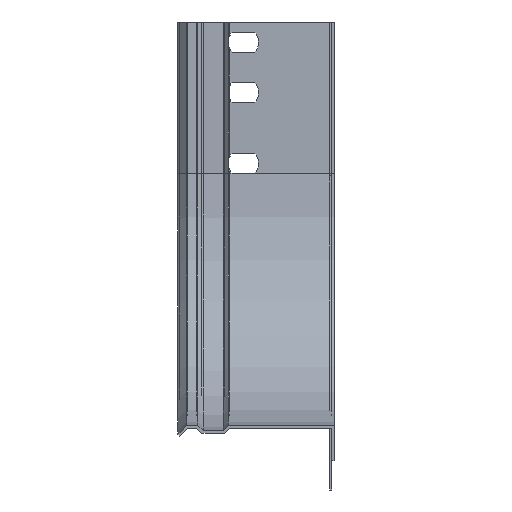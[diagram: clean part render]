
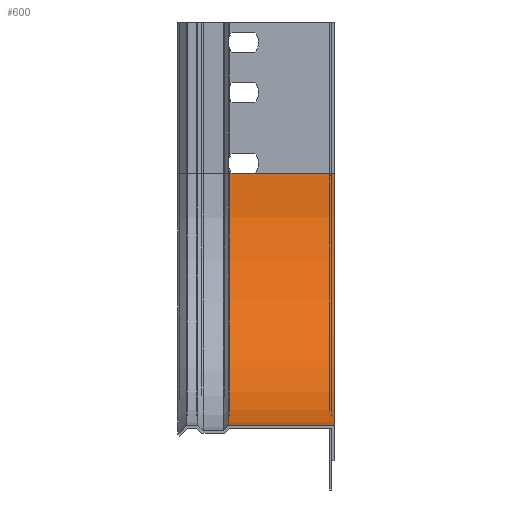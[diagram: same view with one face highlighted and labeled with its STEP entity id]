
A CAD part, left-side view. The second image highlights one B-rep face of the part: STEP entity #600.
In plain terms, the highlighted cylindrical face has radius 100 mm (diameter 200 mm), a partial arc.
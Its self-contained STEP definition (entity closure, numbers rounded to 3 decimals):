
#17 = CARTESIAN_POINT ( 'NONE',  ( -60., 40.472, 160. ) ) ;
#136 = VERTEX_POINT ( 'NONE', #5245 ) ;
#205 = AXIS2_PLACEMENT_3D ( 'NONE', #5011, #2411, #4101 ) ;
#424 = EDGE_CURVE ( 'NONE', #136, #1048, #5495, .T. ) ;
#427 = DIRECTION ( 'NONE',  ( 0., 0., -1. ) ) ;
#465 = CIRCLE ( 'NONE', #1467, 100. ) ;
#478 = FACE_OUTER_BOUND ( 'NONE', #2475, .T. ) ;
#572 = CARTESIAN_POINT ( 'NONE',  ( -60., 40.472, 160. ) ) ;
#600 = ADVANCED_FACE ( 'NONE', ( #478 ), #3090, .F. ) ;
#711 = CARTESIAN_POINT ( 'NONE',  ( -160., 42., 60. ) ) ;
#814 = DIRECTION ( 'NONE',  ( 0., -1., 0. ) ) ;
#856 = CARTESIAN_POINT ( 'NONE',  ( -160., 0., 60. ) ) ;
#875 = ORIENTED_EDGE ( 'NONE', *, *, #424, .T. ) ;
#955 = DIRECTION ( 'NONE',  ( 0., 0., -1. ) ) ;
#1048 = VERTEX_POINT ( 'NONE', #2233 ) ;
#1123 = ORIENTED_EDGE ( 'NONE', *, *, #4787, .F. ) ;
#1189 = DIRECTION ( 'NONE',  ( 0., 1., 0. ) ) ;
#1281 = CARTESIAN_POINT ( 'NONE',  ( -60., 42., 160. ) ) ;
#1467 = AXIS2_PLACEMENT_3D ( 'NONE', #4220, #814, #427 ) ;
#1878 = VERTEX_POINT ( 'NONE', #2139 ) ;
#1930 = DIRECTION ( 'NONE',  ( 0., 1., 0. ) ) ;
#1950 = EDGE_CURVE ( 'NONE', #1048, #4756, #4312, .T. ) ;
#1983 = VERTEX_POINT ( 'NONE', #1281 ) ;
#2021 = EDGE_CURVE ( 'NONE', #4760, #1878, #465, .T. ) ;
#2078 = ORIENTED_EDGE ( 'NONE', *, *, #4806, .F. ) ;
#2131 = VECTOR ( 'NONE', #5592, 1000. ) ;
#2139 = CARTESIAN_POINT ( 'NONE',  ( -160., 0., 60. ) ) ;
#2233 = CARTESIAN_POINT ( 'NONE',  ( -160., 40.472, 60. ) ) ;
#2351 = CARTESIAN_POINT ( 'NONE',  ( -60., 0., 160. ) ) ;
#2367 = EDGE_CURVE ( 'NONE', #1983, #4756, #3010, .T. ) ;
#2411 = DIRECTION ( 'NONE',  ( 0., -1., 0. ) ) ;
#2475 = EDGE_LOOP ( 'NONE', ( #1123, #2607, #5223, #875, #3508, #4998, #3250, #2078 ) ) ;
#2607 = ORIENTED_EDGE ( 'NONE', *, *, #2021, .T. ) ;
#2799 = LINE ( 'NONE', #4831, #4464 ) ;
#2900 = VERTEX_POINT ( 'NONE', #3171 ) ;
#2928 = VECTOR ( 'NONE', #5216, 1000. ) ;
#3010 = CIRCLE ( 'NONE', #205, 100. ) ;
#3090 = CYLINDRICAL_SURFACE ( 'NONE', #4166, 100. ) ;
#3171 = CARTESIAN_POINT ( 'NONE',  ( -60., 31.528, 160. ) ) ;
#3250 = ORIENTED_EDGE ( 'NONE', *, *, #3629, .F. ) ;
#3417 = CARTESIAN_POINT ( 'NONE',  ( -60., 0., 160. ) ) ;
#3481 = CARTESIAN_POINT ( 'NONE',  ( -60., 0., 60. ) ) ;
#3508 = ORIENTED_EDGE ( 'NONE', *, *, #1950, .T. ) ;
#3629 = EDGE_CURVE ( 'NONE', #4091, #1983, #5201, .T. ) ;
#3644 = VECTOR ( 'NONE', #5540, 1000. ) ;
#3828 = EDGE_CURVE ( 'NONE', #1878, #136, #2799, .T. ) ;
#3933 = DIRECTION ( 'NONE',  ( 0., -1., 0. ) ) ;
#3972 = DIRECTION ( 'NONE',  ( 0., 1., 0. ) ) ;
#4091 = VERTEX_POINT ( 'NONE', #572 ) ;
#4101 = DIRECTION ( 'NONE',  ( 0., 0., -1. ) ) ;
#4137 = CARTESIAN_POINT ( 'NONE',  ( -60., 0., 160. ) ) ;
#4166 = AXIS2_PLACEMENT_3D ( 'NONE', #3481, #3933, #955 ) ;
#4220 = CARTESIAN_POINT ( 'NONE',  ( -60., 0., 60. ) ) ;
#4244 = CARTESIAN_POINT ( 'NONE',  ( -160., 40.472, 60. ) ) ;
#4312 = LINE ( 'NONE', #856, #2928 ) ;
#4347 = VECTOR ( 'NONE', #1189, 1000. ) ;
#4464 = VECTOR ( 'NONE', #3972, 1000. ) ;
#4503 = LINE ( 'NONE', #2351, #4573 ) ;
#4573 = VECTOR ( 'NONE', #1930, 1000. ) ;
#4756 = VERTEX_POINT ( 'NONE', #711 ) ;
#4760 = VERTEX_POINT ( 'NONE', #4137 ) ;
#4787 = EDGE_CURVE ( 'NONE', #4760, #2900, #4503, .T. ) ;
#4806 = EDGE_CURVE ( 'NONE', #2900, #4091, #5253, .T. ) ;
#4831 = CARTESIAN_POINT ( 'NONE',  ( -160., 0., 60. ) ) ;
#4998 = ORIENTED_EDGE ( 'NONE', *, *, #2367, .F. ) ;
#5011 = CARTESIAN_POINT ( 'NONE',  ( -60., 42., 60. ) ) ;
#5201 = LINE ( 'NONE', #3417, #3644 ) ;
#5216 = DIRECTION ( 'NONE',  ( 0., 1., 0. ) ) ;
#5223 = ORIENTED_EDGE ( 'NONE', *, *, #3828, .T. ) ;
#5245 = CARTESIAN_POINT ( 'NONE',  ( -160., 31.528, 60. ) ) ;
#5253 = LINE ( 'NONE', #17, #2131 ) ;
#5495 = LINE ( 'NONE', #4244, #4347 ) ;
#5540 = DIRECTION ( 'NONE',  ( 0., 1., 0. ) ) ;
#5592 = DIRECTION ( 'NONE',  ( 0., 1., 0. ) ) ;
